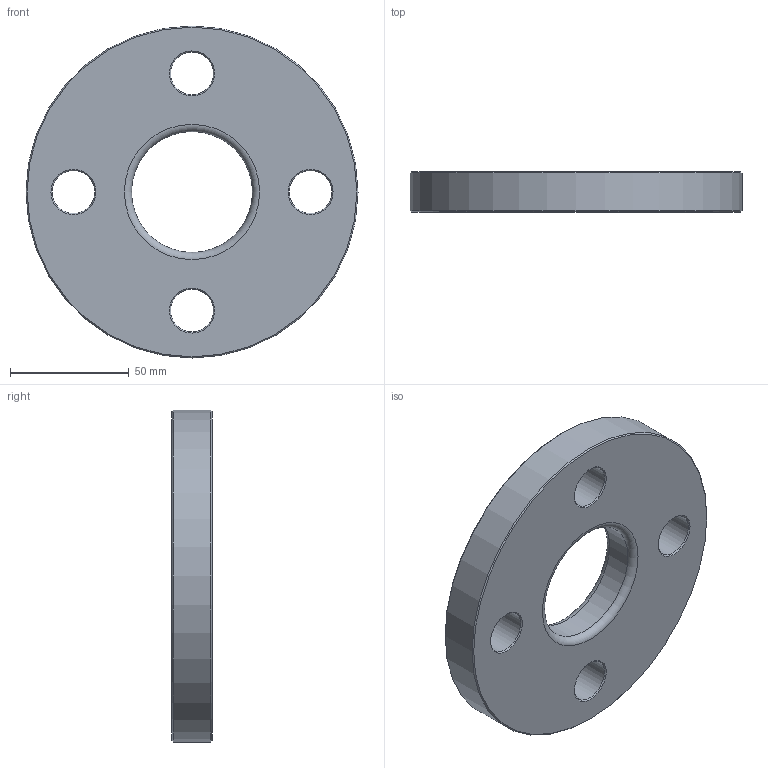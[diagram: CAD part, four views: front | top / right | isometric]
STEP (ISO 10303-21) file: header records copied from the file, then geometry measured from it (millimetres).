
FILE_DESCRIPTION(/* description */ ('Unknown'),/* implementation_level */ '2;1');
FILE_NAME(/* name */ 'FR040C',/* time_stamp */ '2022-07-05T15:46:54+02:00',/* author */ ('Unknown'),/* organization */ ('Unknown'),/* preprocessor_version */ 'ST-DEVELOPER v18.102',/* originating_system */ 'Solid Edge',/* authorisation */ 'Unknown');
FILE_SCHEMA (('AUTOMOTIVE_DESIGN {1 0 10303 214 3 1 1}'));
Length unit declared in the file: millimetre
Products named in the file (1): FR040C
Bounding box: 140 x 17 x 140 mm (x, y, z)
Volume: 208860.4 mm3; surface area: 37919.5 mm2
Topology: 1 solids, 1 shells, 20 faces, 54 edges, 36 vertices
Faces by surface type: cone 10, cylinder 6, plane 2, torus 2
Full cylindrical faces by diameter (mm): 18 x4, 51 x1, 140 x1
Entity records: 494 total; most frequent: DIRECTION 90, CARTESIAN_POINT 69, ORIENTED_EDGE 48, EDGE_LOOP 48, FACE_BOUND 48, AXIS2_PLACEMENT_3D 45, EDGE_CURVE 24, VERTEX_POINT 24
